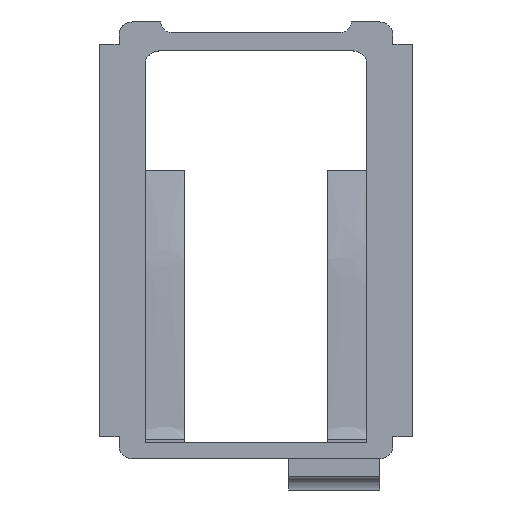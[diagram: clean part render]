
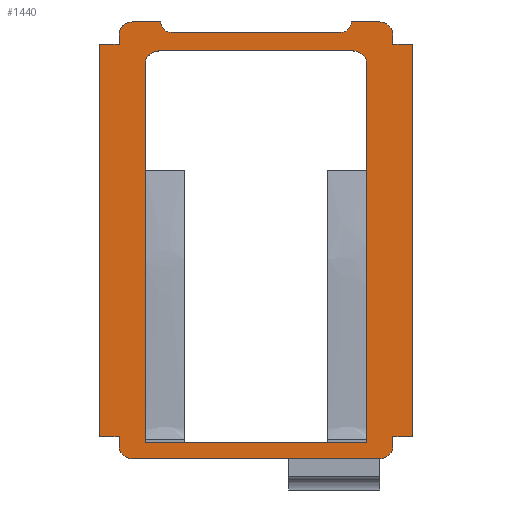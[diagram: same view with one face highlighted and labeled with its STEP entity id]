
A CAD part, front view. The second image highlights one B-rep face of the part: STEP entity #1440.
In plain terms, the highlighted planar face has unit normal (0, -1, 0).
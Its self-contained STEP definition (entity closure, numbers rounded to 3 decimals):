
#25=FACE_BOUND('',#164,.T.);
#26=CIRCLE('',#1518,1.);
#34=CIRCLE('',#1538,1.);
#35=CIRCLE('',#1539,1.);
#36=CIRCLE('',#1540,0.8);
#37=CIRCLE('',#1541,0.8);
#38=CIRCLE('',#1542,1.);
#39=CIRCLE('',#1543,1.);
#40=CIRCLE('',#1544,1.);
#91=FACE_OUTER_BOUND('',#163,.T.);
#163=EDGE_LOOP('',(#1036,#1037,#1038,#1039,#1040,#1041,#1042,#1043,#1044,
#1045,#1046,#1047,#1048,#1049,#1050,#1051,#1052,#1053,#1054,#1055));
#164=EDGE_LOOP('',(#1056,#1057,#1058,#1059,#1060,#1061,#1062,#1063));
#250=LINE('',#1993,#413);
#282=LINE('',#2219,#445);
#290=LINE('',#2240,#453);
#294=LINE('',#2248,#457);
#296=LINE('',#2254,#459);
#301=LINE('',#2262,#464);
#302=LINE('',#2267,#465);
#303=LINE('',#2269,#466);
#304=LINE('',#2271,#467);
#305=LINE('',#2273,#468);
#306=LINE('',#2275,#469);
#307=LINE('',#2279,#470);
#308=LINE('',#2283,#471);
#309=LINE('',#2287,#472);
#310=LINE('',#2291,#473);
#311=LINE('',#2293,#474);
#312=LINE('',#2295,#475);
#313=LINE('',#2297,#476);
#314=LINE('',#2299,#477);
#315=LINE('',#2303,#478);
#413=VECTOR('',#1622,10.);
#445=VECTOR('',#1688,1000.);
#453=VECTOR('',#1702,10.);
#457=VECTOR('',#1710,10.);
#459=VECTOR('',#1714,10.);
#464=VECTOR('',#1721,10.);
#465=VECTOR('',#1726,1000.);
#466=VECTOR('',#1727,1000.);
#467=VECTOR('',#1728,1000.);
#468=VECTOR('',#1729,1000.);
#469=VECTOR('',#1730,1000.);
#470=VECTOR('',#1733,1000.);
#471=VECTOR('',#1736,10.);
#472=VECTOR('',#1739,1000.);
#473=VECTOR('',#1742,1000.);
#474=VECTOR('',#1743,1000.);
#475=VECTOR('',#1744,1000.);
#476=VECTOR('',#1745,1000.);
#477=VECTOR('',#1746,1000.);
#478=VECTOR('',#1751,10.);
#576=VERTEX_POINT('',#1990);
#577=VERTEX_POINT('',#1992);
#590=VERTEX_POINT('',#2052);
#614=VERTEX_POINT('',#2216);
#615=VERTEX_POINT('',#2218);
#621=VERTEX_POINT('',#2239);
#623=VERTEX_POINT('',#2246);
#625=VERTEX_POINT('',#2251);
#626=VERTEX_POINT('',#2253);
#629=VERTEX_POINT('',#2264);
#630=VERTEX_POINT('',#2266);
#631=VERTEX_POINT('',#2268);
#632=VERTEX_POINT('',#2270);
#633=VERTEX_POINT('',#2272);
#634=VERTEX_POINT('',#2274);
#635=VERTEX_POINT('',#2276);
#636=VERTEX_POINT('',#2278);
#637=VERTEX_POINT('',#2280);
#638=VERTEX_POINT('',#2282);
#639=VERTEX_POINT('',#2284);
#640=VERTEX_POINT('',#2286);
#641=VERTEX_POINT('',#2288);
#642=VERTEX_POINT('',#2290);
#643=VERTEX_POINT('',#2292);
#644=VERTEX_POINT('',#2294);
#645=VERTEX_POINT('',#2296);
#646=VERTEX_POINT('',#2298);
#647=VERTEX_POINT('',#2301);
#722=EDGE_CURVE('',#577,#576,#250,.T.);
#738=EDGE_CURVE('',#576,#590,#26,.T.);
#768=EDGE_CURVE('',#615,#614,#282,.T.);
#777=EDGE_CURVE('',#621,#577,#290,.F.);
#782=EDGE_CURVE('',#590,#623,#294,.T.);
#784=EDGE_CURVE('',#626,#625,#296,.T.);
#789=EDGE_CURVE('',#623,#626,#301,.T.);
#790=EDGE_CURVE('',#614,#629,#34,.T.);
#791=EDGE_CURVE('',#630,#629,#302,.T.);
#792=EDGE_CURVE('',#630,#631,#303,.T.);
#793=EDGE_CURVE('',#631,#632,#304,.T.);
#794=EDGE_CURVE('',#633,#632,#305,.T.);
#795=EDGE_CURVE('',#634,#633,#306,.T.);
#796=EDGE_CURVE('',#634,#635,#35,.T.);
#797=EDGE_CURVE('',#636,#635,#307,.T.);
#798=EDGE_CURVE('',#637,#636,#36,.F.);
#799=EDGE_CURVE('',#637,#638,#308,.F.);
#800=EDGE_CURVE('',#639,#638,#37,.F.);
#801=EDGE_CURVE('',#640,#639,#309,.T.);
#802=EDGE_CURVE('',#640,#641,#38,.T.);
#803=EDGE_CURVE('',#641,#642,#310,.T.);
#804=EDGE_CURVE('',#642,#643,#311,.T.);
#805=EDGE_CURVE('',#644,#643,#312,.T.);
#806=EDGE_CURVE('',#645,#644,#313,.T.);
#807=EDGE_CURVE('',#645,#646,#314,.T.);
#808=EDGE_CURVE('',#646,#615,#39,.T.);
#809=EDGE_CURVE('',#625,#647,#40,.T.);
#810=EDGE_CURVE('',#647,#621,#315,.T.);
#1036=ORIENTED_EDGE('',*,*,#768,.T.);
#1037=ORIENTED_EDGE('',*,*,#790,.T.);
#1038=ORIENTED_EDGE('',*,*,#791,.F.);
#1039=ORIENTED_EDGE('',*,*,#792,.T.);
#1040=ORIENTED_EDGE('',*,*,#793,.T.);
#1041=ORIENTED_EDGE('',*,*,#794,.F.);
#1042=ORIENTED_EDGE('',*,*,#795,.F.);
#1043=ORIENTED_EDGE('',*,*,#796,.T.);
#1044=ORIENTED_EDGE('',*,*,#797,.F.);
#1045=ORIENTED_EDGE('',*,*,#798,.F.);
#1046=ORIENTED_EDGE('',*,*,#799,.T.);
#1047=ORIENTED_EDGE('',*,*,#800,.F.);
#1048=ORIENTED_EDGE('',*,*,#801,.F.);
#1049=ORIENTED_EDGE('',*,*,#802,.T.);
#1050=ORIENTED_EDGE('',*,*,#803,.T.);
#1051=ORIENTED_EDGE('',*,*,#804,.T.);
#1052=ORIENTED_EDGE('',*,*,#805,.F.);
#1053=ORIENTED_EDGE('',*,*,#806,.F.);
#1054=ORIENTED_EDGE('',*,*,#807,.T.);
#1055=ORIENTED_EDGE('',*,*,#808,.T.);
#1056=ORIENTED_EDGE('',*,*,#722,.T.);
#1057=ORIENTED_EDGE('',*,*,#738,.T.);
#1058=ORIENTED_EDGE('',*,*,#782,.T.);
#1059=ORIENTED_EDGE('',*,*,#789,.T.);
#1060=ORIENTED_EDGE('',*,*,#784,.T.);
#1061=ORIENTED_EDGE('',*,*,#809,.T.);
#1062=ORIENTED_EDGE('',*,*,#810,.T.);
#1063=ORIENTED_EDGE('',*,*,#777,.T.);
#1391=PLANE('',#1537);
#1440=ADVANCED_FACE('',(#91,#25),#1391,.F.);
#1518=AXIS2_PLACEMENT_3D('',#2054,#1644,#1645);
#1537=AXIS2_PLACEMENT_3D('',#2263,#1722,#1723);
#1538=AXIS2_PLACEMENT_3D('',#2265,#1724,#1725);
#1539=AXIS2_PLACEMENT_3D('',#2277,#1731,#1732);
#1540=AXIS2_PLACEMENT_3D('',#2281,#1734,#1735);
#1541=AXIS2_PLACEMENT_3D('',#2285,#1737,#1738);
#1542=AXIS2_PLACEMENT_3D('',#2289,#1740,#1741);
#1543=AXIS2_PLACEMENT_3D('',#2300,#1747,#1748);
#1544=AXIS2_PLACEMENT_3D('',#2302,#1749,#1750);
#1622=DIRECTION('',(0.,0.,1.));
#1644=DIRECTION('center_axis',(0.,1.,0.));
#1645=DIRECTION('ref_axis',(0.,0.,1.));
#1688=DIRECTION('',(1.,0.,0.));
#1702=DIRECTION('',(1.,0.,0.));
#1710=DIRECTION('',(0.,0.,1.));
#1714=DIRECTION('',(0.,0.,-1.));
#1721=DIRECTION('',(1.,0.,0.));
#1722=DIRECTION('center_axis',(0.,1.,0.));
#1723=DIRECTION('ref_axis',(0.,0.,1.));
#1724=DIRECTION('center_axis',(0.,-1.,0.));
#1725=DIRECTION('ref_axis',(0.,0.,1.));
#1726=DIRECTION('',(0.,0.,-1.));
#1727=DIRECTION('',(1.,0.,0.));
#1728=DIRECTION('',(0.,0.,1.));
#1729=DIRECTION('',(1.,0.,0.));
#1730=DIRECTION('',(0.,0.,-1.));
#1731=DIRECTION('center_axis',(0.,-1.,0.));
#1732=DIRECTION('ref_axis',(0.,0.,1.));
#1733=DIRECTION('',(1.,0.,0.));
#1734=DIRECTION('center_axis',(0.,1.,0.));
#1735=DIRECTION('ref_axis',(0.707,0.,-0.707));
#1736=DIRECTION('',(1.,0.,0.));
#1737=DIRECTION('center_axis',(0.,1.,0.));
#1738=DIRECTION('ref_axis',(-0.707,0.,-0.707));
#1739=DIRECTION('',(1.,0.,0.));
#1740=DIRECTION('center_axis',(0.,-1.,0.));
#1741=DIRECTION('ref_axis',(0.,0.,1.));
#1742=DIRECTION('',(0.,0.,-1.));
#1743=DIRECTION('',(-1.,0.,0.));
#1744=DIRECTION('',(0.,0.,1.));
#1745=DIRECTION('',(-1.,0.,0.));
#1746=DIRECTION('',(0.,0.,-1.));
#1747=DIRECTION('center_axis',(0.,-1.,0.));
#1748=DIRECTION('ref_axis',(0.,0.,1.));
#1749=DIRECTION('center_axis',(0.,1.,0.));
#1750=DIRECTION('ref_axis',(0.,0.,1.));
#1751=DIRECTION('',(0.,0.,-1.));
#1990=CARTESIAN_POINT('',(-8.5,24.3,13.5));
#1992=CARTESIAN_POINT('',(-8.5,24.3,-15.539));
#1993=CARTESIAN_POINT('',(-8.5,24.3,-7.62));
#2052=CARTESIAN_POINT('',(-7.5,24.3,14.5));
#2054=CARTESIAN_POINT('Origin',(-7.5,24.3,13.5));
#2216=CARTESIAN_POINT('',(9.5,24.3,-16.75));
#2218=CARTESIAN_POINT('',(-9.5,24.3,-16.75));
#2219=CARTESIAN_POINT('',(0.,24.3,-16.75));
#2239=CARTESIAN_POINT('',(8.5,24.3,-15.539));
#2240=CARTESIAN_POINT('',(0.,24.3,-15.539));
#2246=CARTESIAN_POINT('',(-7.5,24.3,14.6));
#2248=CARTESIAN_POINT('',(-7.5,24.3,7.25));
#2251=CARTESIAN_POINT('',(7.5,24.3,14.5));
#2253=CARTESIAN_POINT('',(7.5,24.3,14.6));
#2254=CARTESIAN_POINT('',(7.5,24.3,7.25));
#2262=CARTESIAN_POINT('',(0.,24.3,14.6));
#2263=CARTESIAN_POINT('Origin',(0.,24.3,0.));
#2264=CARTESIAN_POINT('',(10.5,24.3,-15.75));
#2265=CARTESIAN_POINT('Origin',(9.5,24.3,-15.75));
#2266=CARTESIAN_POINT('',(10.5,24.3,-15.05));
#2267=CARTESIAN_POINT('',(10.5,24.3,0.));
#2268=CARTESIAN_POINT('',(12.,24.3,-15.05));
#2269=CARTESIAN_POINT('',(0.,24.3,-15.05));
#2270=CARTESIAN_POINT('',(12.,24.3,15.05));
#2271=CARTESIAN_POINT('',(12.,24.3,0.));
#2272=CARTESIAN_POINT('',(10.5,24.3,15.05));
#2273=CARTESIAN_POINT('',(0.,24.3,15.05));
#2274=CARTESIAN_POINT('',(10.5,24.3,15.75));
#2275=CARTESIAN_POINT('',(10.5,24.3,0.));
#2276=CARTESIAN_POINT('',(9.5,24.3,16.75));
#2277=CARTESIAN_POINT('Origin',(9.5,24.3,15.75));
#2278=CARTESIAN_POINT('',(7.3,24.3,16.75));
#2279=CARTESIAN_POINT('',(0.,24.3,16.75));
#2280=CARTESIAN_POINT('',(6.5,24.3,15.95));
#2281=CARTESIAN_POINT('Origin',(6.5,24.3,16.75));
#2282=CARTESIAN_POINT('',(-6.5,24.3,15.95));
#2283=CARTESIAN_POINT('',(0.,24.3,15.95));
#2284=CARTESIAN_POINT('',(-7.3,24.3,16.75));
#2285=CARTESIAN_POINT('Origin',(-6.5,24.3,16.75));
#2286=CARTESIAN_POINT('',(-9.5,24.3,16.75));
#2287=CARTESIAN_POINT('',(0.,24.3,16.75));
#2288=CARTESIAN_POINT('',(-10.5,24.3,15.75));
#2289=CARTESIAN_POINT('Origin',(-9.5,24.3,15.75));
#2290=CARTESIAN_POINT('',(-10.5,24.3,15.05));
#2291=CARTESIAN_POINT('',(-10.5,24.3,0.));
#2292=CARTESIAN_POINT('',(-12.,24.3,15.05));
#2293=CARTESIAN_POINT('',(0.,24.3,15.05));
#2294=CARTESIAN_POINT('',(-12.,24.3,-15.05));
#2295=CARTESIAN_POINT('',(-12.,24.3,0.));
#2296=CARTESIAN_POINT('',(-10.5,24.3,-15.05));
#2297=CARTESIAN_POINT('',(0.,24.3,-15.05));
#2298=CARTESIAN_POINT('',(-10.5,24.3,-15.75));
#2299=CARTESIAN_POINT('',(-10.5,24.3,0.));
#2300=CARTESIAN_POINT('Origin',(-9.5,24.3,-15.75));
#2301=CARTESIAN_POINT('',(8.5,24.3,13.5));
#2302=CARTESIAN_POINT('Origin',(7.5,24.3,13.5));
#2303=CARTESIAN_POINT('',(8.5,24.3,-7.62));
